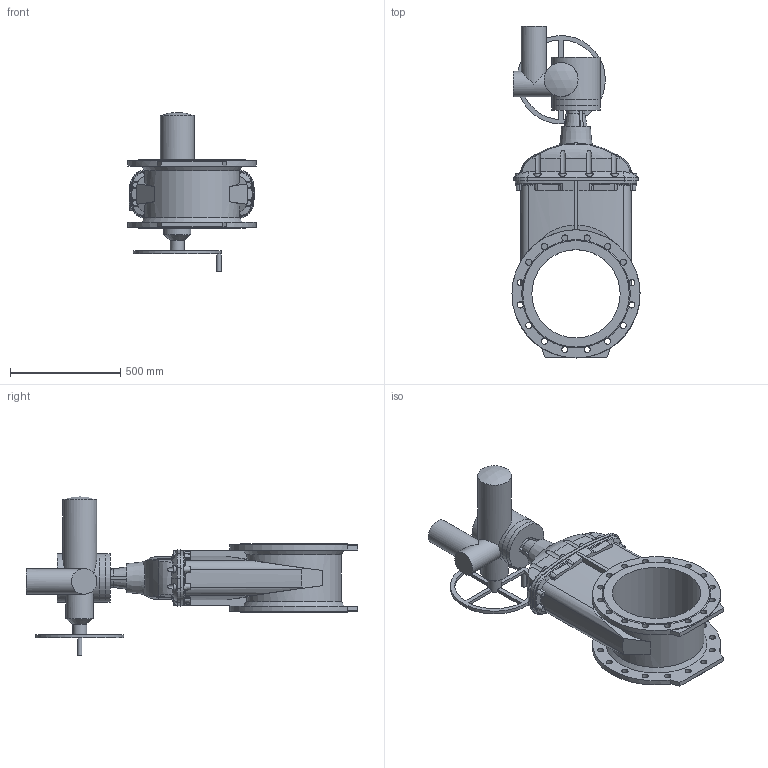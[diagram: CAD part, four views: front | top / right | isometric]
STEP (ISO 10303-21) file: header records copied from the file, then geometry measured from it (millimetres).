
FILE_DESCRIPTION (( 'STEP AP203' ), '1' );
FILE_NAME ('O_15_40_DN400_X0X_SA14.6_AA1.step', '2018-06-20T05:58:21', ( 'Windows User' ), ( 'AVK' ), 'SwSTEP 2.0', 'SolidWorks 2012', '' );
FILE_SCHEMA (( 'CONFIG_CONTROL_DESIGN' ));
Length unit declared in the file: millimetre
Products named in the file (1): O_15_40_DN400_X0X_SA14.6_AA1
Bounding box: 580 x 1502.5 x 721 mm (x, y, z)
Volume: 80222051.8 mm3; surface area: 2840374.4 mm2
Topology: 1 solids, 1 shells, 346 faces, 1068 edges, 700 vertices
Faces by surface type: plane 116, cone 89, cylinder 78, bspline 33, torus 29, sphere 1
Full cylindrical faces by diameter (mm): 20 x1, 28 x32, 62.64 x1, 115 x2, 124.727 x1, 153 x1, 220 x3, 400 x2, 580 x2
Entity records: 18089 total; most frequent: CARTESIAN_POINT 9376, ORIENTED_EDGE 1948, DIRECTION 1596, EDGE_CURVE 974, AXIS2_PLACEMENT_3D 676, VERTEX_POINT 656, EDGE_LOOP 446, FACE_OUTER_BOUND 391
